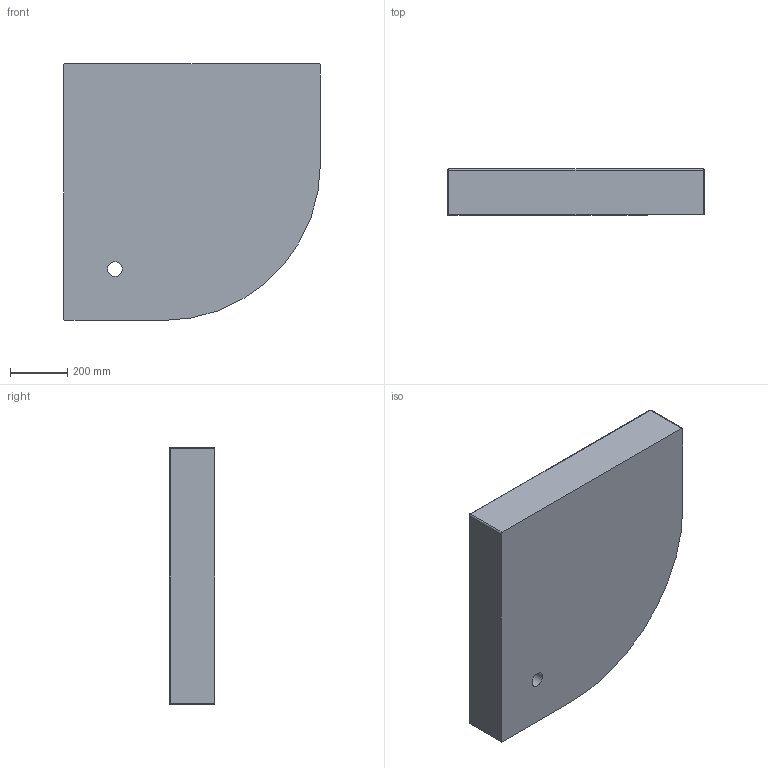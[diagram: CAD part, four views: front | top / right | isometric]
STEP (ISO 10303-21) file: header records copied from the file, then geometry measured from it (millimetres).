
FILE_DESCRIPTION(/* description */ (''),/* implementation_level */ '2;1');
FILE_NAME(/* name */ 'D:\Omnires\Export_Omnires\rys_step\5902539822526_stp.stp',/* time_stamp */ '2020-07-27T15:34:07+02:00',/* author */ (''),/* organization */ (''),/* preprocessor_version */ 'ST-DEVELOPER v18.1',/* originating_system */ 'Autodesk Inventor 2020',/* authorisation */ '');
FILE_SCHEMA (('AUTOMOTIVE_DESIGN { 1 0 10303 214 3 1 1 }'));
Length unit declared in the file: millimetre
Products named in the file (1): 5902539822526_dwg
Bounding box: 900 x 160 x 900 mm (x, y, z)
Surface area: 2092817.3 mm2 (no closed solid volume)
Topology: 0 solids, 1 shells, 47 faces, 145 edges, 138 vertices
Faces by surface type: cylinder 20, plane 11, bspline 6, torus 5, sphere 3, cone 2
Full cylindrical faces by diameter (mm): 52 x1
Entity records: 1832 total; most frequent: CARTESIAN_POINT 515, DIRECTION 272, ORIENTED_EDGE 212, AXIS2_PLACEMENT_3D 113, EDGE_CURVE 106, STYLED_ITEM 86, VERTEX_POINT 62, CIRCLE 56
